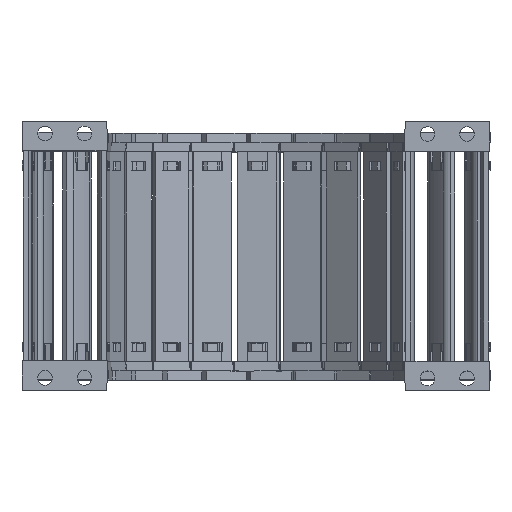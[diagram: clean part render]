
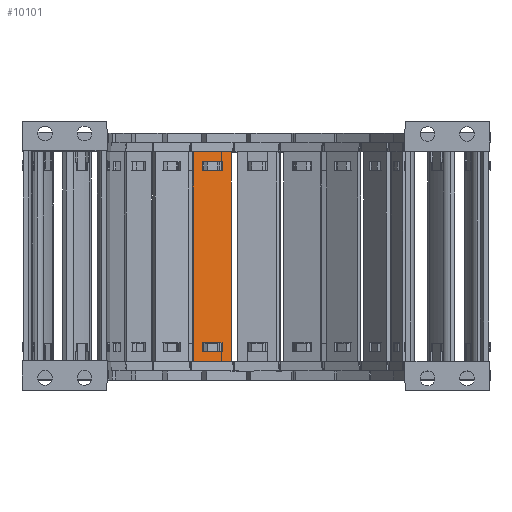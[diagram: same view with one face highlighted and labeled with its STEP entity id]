
A CAD part, top view. The second image highlights one B-rep face of the part: STEP entity #10101.
In plain terms, the highlighted planar face has unit normal (0.259, 0, 0.966).
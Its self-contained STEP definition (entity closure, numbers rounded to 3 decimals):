
#4663=FACE_BOUND('',#23383,.T.);
#4664=FACE_BOUND('',#23384,.T.);
#4665=FACE_BOUND('',#23385,.T.);
#5651=PLANE('',#121248);
#10101=ADVANCED_FACE('',(#4663,#4664,#4665),#5651,.F.);
#23383=EDGE_LOOP('',(#38223,#38224,#38225,#38226));
#23384=EDGE_LOOP('',(#38227,#38228,#38229,#38230));
#23385=EDGE_LOOP('',(#38231,#38232,#38233,#38234));
#38223=ORIENTED_EDGE('',*,*,#81626,.F.);
#38224=ORIENTED_EDGE('',*,*,#81597,.F.);
#38225=ORIENTED_EDGE('',*,*,#81631,.F.);
#38226=ORIENTED_EDGE('',*,*,#81608,.F.);
#38227=ORIENTED_EDGE('',*,*,#81643,.F.);
#38228=ORIENTED_EDGE('',*,*,#81636,.F.);
#38229=ORIENTED_EDGE('',*,*,#81675,.F.);
#38230=ORIENTED_EDGE('',*,*,#81650,.T.);
#38231=ORIENTED_EDGE('',*,*,#81673,.T.);
#38232=ORIENTED_EDGE('',*,*,#81676,.F.);
#38233=ORIENTED_EDGE('',*,*,#81677,.F.);
#38234=ORIENTED_EDGE('',*,*,#81678,.F.);
#69013=VERTEX_POINT('',#171403);
#69014=VERTEX_POINT('',#171405);
#69020=VERTEX_POINT('',#171420);
#69023=VERTEX_POINT('',#171426);
#69040=VERTEX_POINT('',#171483);
#69041=VERTEX_POINT('',#171484);
#69047=VERTEX_POINT('',#171498);
#69050=VERTEX_POINT('',#171506);
#69063=VERTEX_POINT('',#171553);
#69064=VERTEX_POINT('',#171555);
#69065=VERTEX_POINT('',#171560);
#69066=VERTEX_POINT('',#171562);
#81597=EDGE_CURVE('',#69013,#69014,#98089,.T.);
#81608=EDGE_CURVE('',#69023,#69020,#98100,.T.);
#81626=EDGE_CURVE('',#69014,#69023,#98115,.T.);
#81631=EDGE_CURVE('',#69020,#69013,#98120,.T.);
#81636=EDGE_CURVE('',#69040,#69041,#98125,.T.);
#81643=EDGE_CURVE('',#69041,#69047,#98132,.T.);
#81650=EDGE_CURVE('',#69050,#69047,#98139,.T.);
#81673=EDGE_CURVE('',#69064,#69063,#98153,.T.);
#81675=EDGE_CURVE('',#69050,#69040,#98155,.T.);
#81676=EDGE_CURVE('',#69065,#69063,#98156,.T.);
#81677=EDGE_CURVE('',#69066,#69065,#98157,.T.);
#81678=EDGE_CURVE('',#69064,#69066,#98158,.T.);
#98089=LINE('',#171404,#109721);
#98100=LINE('',#171427,#109732);
#98115=LINE('',#171462,#109747);
#98120=LINE('',#171471,#109752);
#98125=LINE('',#171482,#109757);
#98132=LINE('',#171497,#109764);
#98139=LINE('',#171510,#109771);
#98153=LINE('',#171554,#109785);
#98155=LINE('',#171558,#109787);
#98156=LINE('',#171559,#109788);
#98157=LINE('',#171561,#109789);
#98158=LINE('',#171563,#109790);
#109721=VECTOR('',#135874,1.);
#109732=VECTOR('',#135889,1.);
#109747=VECTOR('',#135924,1.);
#109752=VECTOR('',#135933,1.);
#109757=VECTOR('',#135942,1.);
#109764=VECTOR('',#135951,1.);
#109771=VECTOR('',#135960,1.);
#109785=VECTOR('',#136010,1.);
#109787=VECTOR('',#136014,1.);
#109788=VECTOR('',#136015,1.);
#109789=VECTOR('',#136016,1.);
#109790=VECTOR('',#136017,1.);
#121248=AXIS2_PLACEMENT_3D('',#171564,#136018,#136019);
#135874=DIRECTION('',(0.966,0.,-0.259));
#135889=DIRECTION('',(-0.966,0.,0.259));
#135924=DIRECTION('',(0.,1.,0.));
#135933=DIRECTION('',(0.,-1.,0.));
#135942=DIRECTION('',(-0.966,0.,0.259));
#135951=DIRECTION('',(0.,-1.,0.));
#135960=DIRECTION('',(-0.966,0.,0.259));
#136010=DIRECTION('',(0.,-1.,0.));
#136014=DIRECTION('',(0.,1.,0.));
#136015=DIRECTION('',(-0.966,0.,0.259));
#136016=DIRECTION('',(0.,-1.,0.));
#136017=DIRECTION('',(0.966,0.,-0.259));
#136018=DIRECTION('',(-0.259,0.,-0.966));
#136019=DIRECTION('',(-0.966,0.,0.259));
#171403=CARTESIAN_POINT('',(-99.114,-81.03,-76.948));
#171404=CARTESIAN_POINT('',(-99.114,-81.03,-76.948));
#171405=CARTESIAN_POINT('',(-91.242,-81.03,-79.058));
#171420=CARTESIAN_POINT('',(-99.114,-77.382,-76.948));
#171426=CARTESIAN_POINT('',(-91.242,-77.382,-79.058));
#171427=CARTESIAN_POINT('',(-91.242,-77.382,-79.058));
#171462=CARTESIAN_POINT('',(-91.242,-112.46,-79.058));
#171471=CARTESIAN_POINT('',(-99.114,-108.86,-76.948));
#171482=CARTESIAN_POINT('',(-91.242,-3.97,-79.058));
#171483=CARTESIAN_POINT('',(-91.242,-3.97,-79.058));
#171484=CARTESIAN_POINT('',(-99.114,-3.97,-76.948));
#171497=CARTESIAN_POINT('',(-99.114,-3.97,-76.948));
#171498=CARTESIAN_POINT('',(-99.114,-7.618,-76.948));
#171506=CARTESIAN_POINT('',(-91.242,-7.618,-79.058));
#171510=CARTESIAN_POINT('',(-91.242,-7.618,-79.058));
#171553=CARTESIAN_POINT('',(-102.809,-85.,-75.959));
#171554=CARTESIAN_POINT('',(-102.809,0.,-75.959));
#171555=CARTESIAN_POINT('',(-102.809,0.,-75.959));
#171558=CARTESIAN_POINT('',(-91.242,-7.618,-79.058));
#171559=CARTESIAN_POINT('',(-87.547,-85.,-80.048));
#171560=CARTESIAN_POINT('',(-87.547,-85.,-80.048));
#171561=CARTESIAN_POINT('',(-87.547,0.,-80.048));
#171562=CARTESIAN_POINT('',(-87.547,0.,-80.048));
#171563=CARTESIAN_POINT('',(-102.809,0.,-75.959));
#171564=CARTESIAN_POINT('',(-85.46,31.74,-80.607));
